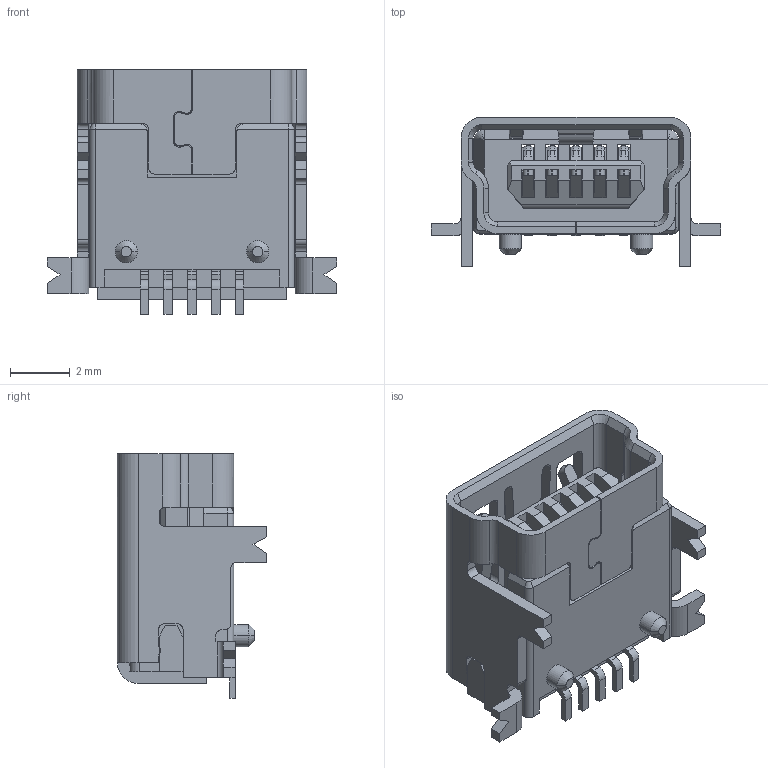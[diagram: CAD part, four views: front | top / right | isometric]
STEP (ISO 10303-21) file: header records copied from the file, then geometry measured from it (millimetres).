
FILE_DESCRIPTION(('CATIA V5 STEP Exchange'),'2;1');
FILE_NAME('F:\Work File\3D\MINI USB 5P REC\mini-usb_1030502AR004_asm.stp','2020-03-04T04:18:00+00:00',('none'),('none'),'CATIA Version 5 Release 17 (IN-10)','CATIA V5 STEP AP203','none');
FILE_SCHEMA(('CONFIG_CONTROL_DESIGN'));
Length unit declared in the file: millimetre
Products named in the file (2): MINI-USB_1030501AX00X_ASM; CONTACT_20_ASM
Assembly tree (8 placements, depth 3):
  MINI-USB_1030501AX00X_ASM
    #56
    CONTACT_20_ASM
      #5671  x5
    #7381
Bounding box: 9.7 x 5 x 8.2 mm (x, y, z)
Volume: 110.2 mm3; surface area: 622.8 mm2
Topology: 7 solids, 7 shells, 654 faces, 1894 edges, 1233 vertices
Faces by surface type: plane 449, cylinder 179, cone 26
Entity records: 15553 total; most frequent: CARTESIAN_POINT 3567, ORIENTED_EDGE 2696, DIRECTION 2112, EDGE_CURVE 1348, VECTOR 1050, LINE 1050, VERTEX_POINT 881, AXIS2_PLACEMENT_3D 615
